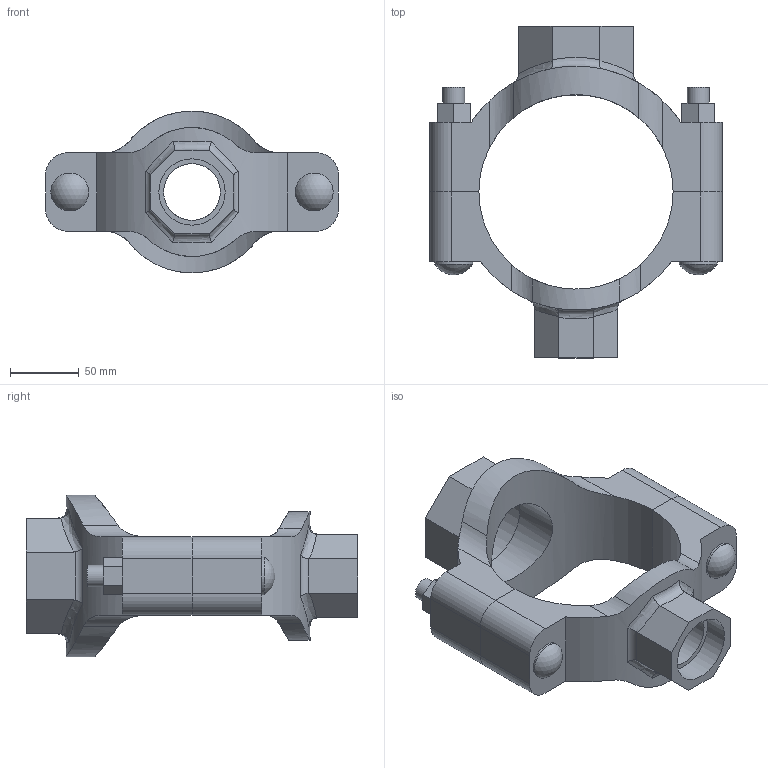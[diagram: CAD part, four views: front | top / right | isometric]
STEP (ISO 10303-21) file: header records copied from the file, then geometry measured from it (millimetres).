
FILE_DESCRIPTION(/* description */ ('VIC MECH-T BRANCH OUTLET CROSS STYLE 920N (THD)','CAx-IF Rec.Pracs.---Representation and Presentation of Product Manufacturing Information (PMI)---4.0---2014-10-13'),/* implementation_level */ '2;1');
FILE_NAME(/* name */ 'C:\Users\Vjadhav\AppData\Roaming\Autodesk\ApplicationPlugins\Back Up\Victaulic_IPS_Mechanical-Cross Outlet_Style 920N (FPT)\Victaulic_IPS_Mechanical-Cross Outlet_05.0x02.5x01.5 (125x65x40).stp',/* time_stamp */ '2020-08-06T18:59:10+05:00',/* author */ ('Vjadhav'),/* organization */ ('Victaulic'),/* preprocessor_version */ 'ST-DEVELOPER v17.2',/* originating_system */ 'Autodesk Inventor 2019',/* authorisation */ '');
FILE_SCHEMA (('AP242_MANAGED_MODEL_BASED_3D_ENGINEERING_MIM_LF { 1 0 10303 442 1 1 4 }'));
Length unit declared in the file: inch
Products named in the file (3): 920NT-05.0x02.5x01.5; 920T-05.0x02.5; 920T-05.0x01.5
Assembly tree (2 placements, depth 2):
  920NT-05.0x02.5x01.5
    920T-05.0x02.5
    920T-05.0x01.5
Bounding box: 212.85 x 241.3 x 117.56 mm (x, y, z)
Volume: 925004.9 mm3; surface area: 164084.2 mm2
Topology: 2 solids, 2 shells, 130 faces, 344 edges, 232 vertices
Faces by surface type: plane 68, cylinder 48, bspline 8, torus 4, sphere 2
Full cylindrical faces by diameter (mm): 15.875 x4, 27.496 x2, 41.275 x1, 48.26 x1, 62.738 x1, 73.025 x1
Entity records: 5118 total; most frequent: CARTESIAN_POINT 1659, ORIENTED_EDGE 688, DIRECTION 638, EDGE_CURVE 344, VERTEX_POINT 232, AXIS2_PLACEMENT_3D 227, LINE 184, VECTOR 184
